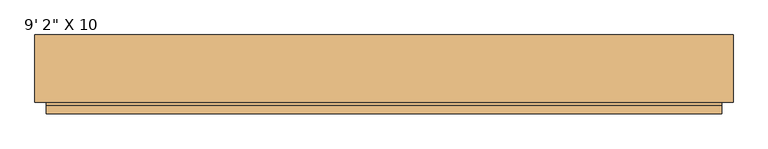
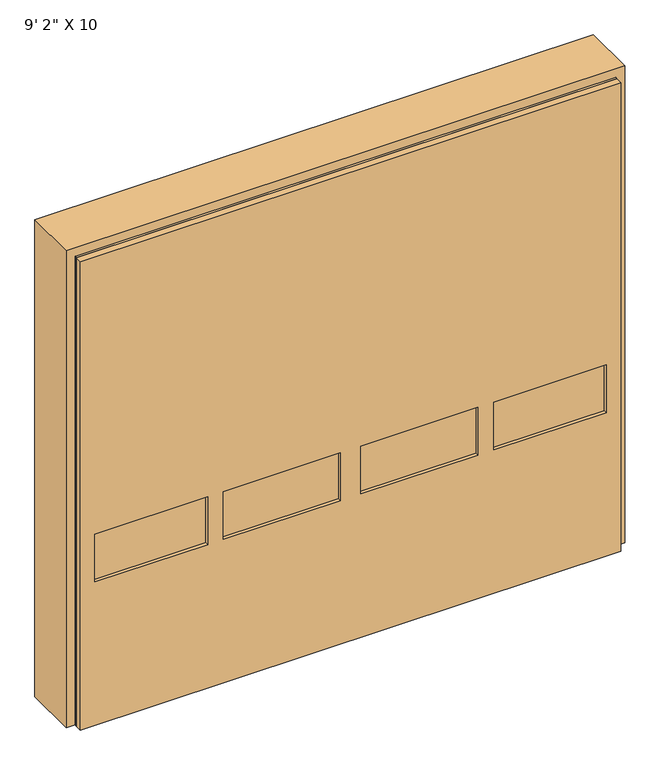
"""IFC4 building model written with IfcOpenShell, lengths in millimetres: door geometry."""

from ifc_helpers import new_model, si_unit, frame, origin, origin_with_axes, place, context, project, spatial, polyline, outline, extrude, source, transform, mapped, element, save


def door_0ad13b3f(model_context):
    return source(origin(), model_context, "Body", "SweptSolid", [
        extrude(outline(polyline([(-1611.0751217, -304.8), (1436.9248783, -304.8), (1436.9248783, -317.5), (-1611.0751217, -317.5), (-1611.0751217, -304.8)])), frame((0.0, 0.0, 399.1428571), z_axis=(0.0, 0.0, 1.0), x_axis=(1.0, 0.0, 0.0)), (0.0, 0.0, 1.0), 399.1428571),
        extrude(outline(polyline([(-1611.0751217, -304.8), (1436.9248783, -304.8), (1436.9248783, -317.5), (-1611.0751217, -317.5), (-1611.0751217, -304.8)])), frame((0.0, 0.0, 1596.5714286), z_axis=(0.0, 0.0, 1.0), x_axis=(1.0, 0.0, 0.0)), (0.0, 0.0, 1.0), 399.1428571),
        extrude(outline(polyline([(-1611.0751217, -304.8), (1436.9248783, -304.8), (1436.9248783, -317.5), (-1611.0751217, -317.5), (-1611.0751217, -304.8)])), frame((0.0, 0.0, 2394.8571429), z_axis=(0.0, 0.0, 1.0), x_axis=(1.0, 0.0, 0.0)), (0.0, 0.0, 1.0), 399.1428571),
        extrude(outline(polyline([(719.3748783, -311.15), (1354.3748783, -311.15), (1354.3748783, -336.55), (719.3748783, -336.55), (719.3748783, -311.15)])), frame((0.0, 0.0, 855.4357143), z_axis=(0.0, 0.0, 1.0), x_axis=(1.0, 0.0, 0.0)), (0.0, 0.0, 1.0), 284.8428571),
        extrude(outline(polyline([(-29.9251217, -311.15), (630.4748783, -311.15), (630.4748783, -336.55), (-29.9251217, -336.55), (-29.9251217, -311.15)])), frame((0.0, 0.0, 855.4357143), z_axis=(0.0, 0.0, 1.0), x_axis=(1.0, 0.0, 0.0)), (0.0, 0.0, 1.0), 284.8428571),
        extrude(outline(polyline([(-804.6251217, -311.15), (-144.2251217, -311.15), (-144.2251217, -336.55), (-804.6251217, -336.55), (-804.6251217, -311.15)])), frame((0.0, 0.0, 855.4357143), z_axis=(0.0, 0.0, 1.0), x_axis=(1.0, 0.0, 0.0)), (0.0, 0.0, 1.0), 284.8428571),
        extrude(outline(polyline([(-1528.5251217, -311.15), (-893.5251217, -311.15), (-893.5251217, -336.55), (-1528.5251217, -336.55), (-1528.5251217, -311.15)])), frame((0.0, 0.0, 855.4357143), z_axis=(0.0, 0.0, 1.0), x_axis=(1.0, 0.0, 0.0)), (0.0, 0.0, 1.0), 284.8428571),
        extrude(outline(polyline([(1197.4285714, -1611.0751217), (798.2857143, -1611.0751217), (798.2857143, 1436.9248783), (1197.4285714, 1436.9248783), (1197.4285714, -1611.0751217)]), holes=[polyline([(1146.6285714, 713.0248783), (1146.6285714, 1360.7248783), (849.0857143, 1360.7248783), (849.0857143, 713.0248783), (1146.6285714, 713.0248783)]), polyline([(1146.6285714, -36.2751217), (1146.6285714, 636.8248783), (849.0857143, 636.8248783), (849.0857143, -36.2751217), (1146.6285714, -36.2751217)]), polyline([(1146.6285714, -810.9751217), (1146.6285714, -137.8751217), (849.0857143, -137.8751217), (849.0857143, -810.9751217), (1146.6285714, -810.9751217)]), polyline([(1146.6285714, -1534.8751217), (1146.6285714, -887.1751217), (849.0857143, -887.1751217), (849.0857143, -1534.8751217), (1146.6285714, -1534.8751217)])]), frame((0.0, -317.5, 0.0), z_axis=(0.0, 1.0, 0.0), x_axis=(0.0, 0.0, 1.0)), (0.0, 0.0, 1.0), 12.7),
        extrude(outline(polyline([(-1611.0751217, -304.8), (1436.9248783, -304.8), (1436.9248783, -317.5), (-1611.0751217, -317.5), (-1611.0751217, -304.8)])), origin_with_axes(), (0.0, 0.0, 1.0), 399.1428571),
        extrude(outline(polyline([(2794.0, 1436.9248783), (0.0, 1436.9248783), (0.0, 1487.7248783), (2844.8, 1487.7248783), (2844.8, -1661.8751217), (0.0, -1661.8751217), (0.0, -1611.0751217), (2794.0, -1611.0751217), (2794.0, 1436.9248783)])), frame((0.0, -304.8, 0.0), z_axis=(0.0, 1.0, 0.0), x_axis=(0.0, 0.0, 1.0)), (0.0, 0.0, 1.0), 304.8),
        extrude(outline(polyline([(2794.0, -1611.0751217), (0.0, -1611.0751217), (0.0, 1436.9248783), (2794.0, 1436.9248783), (2794.0, -1611.0751217)]), holes=[polyline([(855.4357143, 719.3748783), (1140.2785714, 719.3748783), (1140.2785714, 1354.3748783), (855.4357143, 1354.3748783), (855.4357143, 719.3748783)]), polyline([(855.4357143, -29.9251217), (1140.2785714, -29.9251217), (1140.2785714, 630.4748783), (855.4357143, 630.4748783), (855.4357143, -29.9251217)]), polyline([(855.4357143, -804.6251217), (1140.2785714, -804.6251217), (1140.2785714, -144.2251217), (855.4357143, -144.2251217), (855.4357143, -804.6251217)]), polyline([(855.4357143, -1528.5251217), (1140.2785714, -1528.5251217), (1140.2785714, -893.5251217), (855.4357143, -893.5251217), (855.4357143, -1528.5251217)])]), frame((0.0, -355.6, 0.0), z_axis=(0.0, 1.0, 0.0), x_axis=(0.0, 0.0, 1.0)), (0.0, 0.0, 1.0), 38.1),
        extrude(outline(polyline([(-1611.0751217, -304.8), (1436.9248783, -304.8), (1436.9248783, -317.5), (-1611.0751217, -317.5), (-1611.0751217, -304.8)])), frame((0.0, 0.0, 1995.7142857), z_axis=(0.0, 0.0, 1.0), x_axis=(1.0, 0.0, 0.0)), (0.0, 0.0, 1.0), 399.1428571),
        extrude(outline(polyline([(-1611.0751217, -304.8), (1436.9248783, -304.8), (1436.9248783, -317.5), (-1611.0751217, -317.5), (-1611.0751217, -304.8)])), frame((0.0, 0.0, 1197.4285714), z_axis=(0.0, 0.0, 1.0), x_axis=(1.0, 0.0, 0.0)), (0.0, 0.0, 1.0), 399.1428571),
    ])


if __name__ == "__main__":
    model = new_model("IFC4")
    model_context = context("Model", 3, world=origin())
    ifc_project = project(units=[si_unit("LENGTHUNIT", "METRE", prefix="MILLI")], contexts=[model_context])
    site = spatial("IfcSite", under=ifc_project)
    building = spatial("IfcBuilding", under=site)
    placement = place(None, origin())
    door_shape = door_0ad13b3f(model_context)
    element("IfcDoor", 1, ObjectType="OH-doorwithglass_BA : 9' 2\" X 10", at=placement, inside=building, context=model_context, shape_type="MappedRepresentation", body=[
        mapped(door_shape, transform((0.0, 0.0, 0.0), x_axis=(1.0, 0.0, 0.0), y_axis=(0.0, 1.0, 0.0), z_axis=(0.0, 0.0, 1.0))),
    ])
    save(model, "model.ifc")
